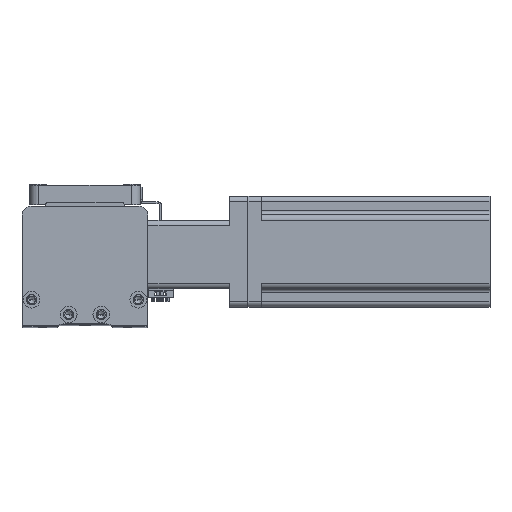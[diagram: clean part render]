
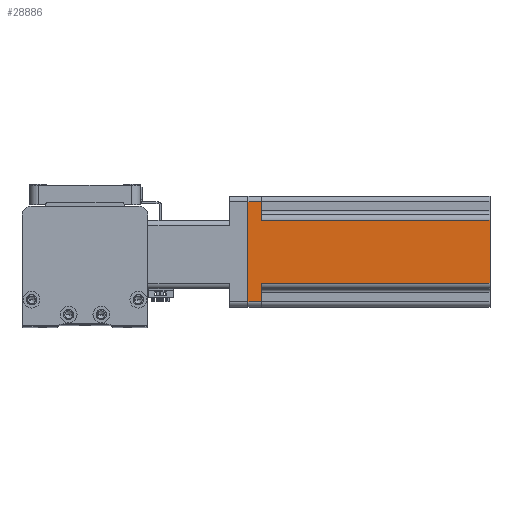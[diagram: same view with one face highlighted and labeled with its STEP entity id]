
A CAD part, top view. The second image highlights one B-rep face of the part: STEP entity #28886.
In plain terms, the highlighted planar face has unit normal (0, 0, 1) as drawn and (1, 0, 0) by its records, which use the part's own axes.
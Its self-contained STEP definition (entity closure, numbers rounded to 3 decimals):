
#567 = VERTEX_POINT ( 'NONE', #39133 ) ;
#2276 = ORIENTED_EDGE ( 'NONE', *, *, #24563, .T. ) ;
#2389 = EDGE_CURVE ( 'NONE', #29816, #38630, #24641, .T. ) ;
#2416 = CARTESIAN_POINT ( 'NONE',  ( 30., -30., 130.7 ) ) ;
#2629 = EDGE_CURVE ( 'NONE', #29816, #37525, #14447, .T. ) ;
#2710 = DIRECTION ( 'NONE',  ( 0., -1., 0. ) ) ;
#2747 = EDGE_CURVE ( 'NONE', #18553, #37525, #17988, .T. ) ;
#3157 = EDGE_LOOP ( 'NONE', ( #40723, #36062, #2276, #20731, #13988, #18474, #4409, #36394 ) ) ;
#3267 = LINE ( 'NONE', #19805, #10836 ) ;
#4409 = ORIENTED_EDGE ( 'NONE', *, *, #2629, .F. ) ;
#5185 = VERTEX_POINT ( 'NONE', #6731 ) ;
#5613 = CARTESIAN_POINT ( 'NONE',  ( 30., -30., 130.7 ) ) ;
#6731 = CARTESIAN_POINT ( 'NONE',  ( 30., -17., 130.7 ) ) ;
#6917 = VECTOR ( 'NONE', #41690, 1000. ) ;
#7534 = VECTOR ( 'NONE', #21786, 1000. ) ;
#8405 = DIRECTION ( 'NONE',  ( 0., 0., 1. ) ) ;
#8862 = DIRECTION ( 'NONE',  ( 0., 0., 1. ) ) ;
#9389 = VECTOR ( 'NONE', #8405, 1000. ) ;
#10541 = VERTEX_POINT ( 'NONE', #21594 ) ;
#10836 = VECTOR ( 'NONE', #23063, 1000. ) ;
#11458 = EDGE_CURVE ( 'NONE', #15445, #18553, #35357, .T. ) ;
#12368 = AXIS2_PLACEMENT_3D ( 'NONE', #5613, #28245, #8862 ) ;
#13988 = ORIENTED_EDGE ( 'NONE', *, *, #11458, .T. ) ;
#14447 = LINE ( 'NONE', #29178, #6917 ) ;
#14976 = VECTOR ( 'NONE', #2710, 1000. ) ;
#15445 = VERTEX_POINT ( 'NONE', #20752 ) ;
#15959 = LINE ( 'NONE', #18796, #14976 ) ;
#17988 = LINE ( 'NONE', #31350, #9389 ) ;
#18474 = ORIENTED_EDGE ( 'NONE', *, *, #2747, .T. ) ;
#18553 = VERTEX_POINT ( 'NONE', #20704 ) ;
#18796 = CARTESIAN_POINT ( 'NONE',  ( 30., -30., 7.5 ) ) ;
#19025 = EDGE_CURVE ( 'NONE', #5185, #10541, #3267, .T. ) ;
#19805 = CARTESIAN_POINT ( 'NONE',  ( 30., -17., 7.5 ) ) ;
#20383 = DIRECTION ( 'NONE',  ( 0., 0., -1. ) ) ;
#20704 = CARTESIAN_POINT ( 'NONE',  ( 30., 27., 0. ) ) ;
#20731 = ORIENTED_EDGE ( 'NONE', *, *, #22917, .T. ) ;
#20752 = CARTESIAN_POINT ( 'NONE',  ( 30., -27., 0. ) ) ;
#21275 = EDGE_CURVE ( 'NONE', #5185, #38630, #39977, .T. ) ;
#21594 = CARTESIAN_POINT ( 'NONE',  ( 30., -17., 7.5 ) ) ;
#21786 = DIRECTION ( 'NONE',  ( 0., 1., 0. ) ) ;
#22917 = EDGE_CURVE ( 'NONE', #567, #15445, #40634, .T. ) ;
#23063 = DIRECTION ( 'NONE',  ( 0., 0., -1. ) ) ;
#24563 = EDGE_CURVE ( 'NONE', #10541, #567, #15959, .T. ) ;
#24641 = LINE ( 'NONE', #25911, #32167 ) ;
#25731 = VECTOR ( 'NONE', #35491, 1000. ) ;
#25911 = CARTESIAN_POINT ( 'NONE',  ( 30., 17., 130.7 ) ) ;
#28245 = DIRECTION ( 'NONE',  ( -1., 0., 0. ) ) ;
#28886 = ADVANCED_FACE ( 'NONE', ( #34185 ), #34635, .F. ) ;
#29178 = CARTESIAN_POINT ( 'NONE',  ( 30., 30., 7.5 ) ) ;
#29816 = VERTEX_POINT ( 'NONE', #36558 ) ;
#29971 = CARTESIAN_POINT ( 'NONE',  ( 30., -27., 130.7 ) ) ;
#31350 = CARTESIAN_POINT ( 'NONE',  ( 30., 27., 130.7 ) ) ;
#31398 = DIRECTION ( 'NONE',  ( 0., 0., 1. ) ) ;
#31658 = CARTESIAN_POINT ( 'NONE',  ( 30., 17., 130.7 ) ) ;
#31930 = VECTOR ( 'NONE', #20383, 1000. ) ;
#32167 = VECTOR ( 'NONE', #31398, 1000. ) ;
#32181 = CARTESIAN_POINT ( 'NONE',  ( 30., -30., 0. ) ) ;
#32466 = CARTESIAN_POINT ( 'NONE',  ( 30., 27., 7.5 ) ) ;
#34185 = FACE_OUTER_BOUND ( 'NONE', #3157, .T. ) ;
#34635 = PLANE ( 'NONE',  #12368 ) ;
#35357 = LINE ( 'NONE', #32181, #25731 ) ;
#35491 = DIRECTION ( 'NONE',  ( 0., 1., 0. ) ) ;
#36062 = ORIENTED_EDGE ( 'NONE', *, *, #19025, .T. ) ;
#36394 = ORIENTED_EDGE ( 'NONE', *, *, #2389, .T. ) ;
#36558 = CARTESIAN_POINT ( 'NONE',  ( 30., 17., 7.5 ) ) ;
#37525 = VERTEX_POINT ( 'NONE', #32466 ) ;
#38630 = VERTEX_POINT ( 'NONE', #31658 ) ;
#39133 = CARTESIAN_POINT ( 'NONE',  ( 30., -27., 7.5 ) ) ;
#39977 = LINE ( 'NONE', #2416, #7534 ) ;
#40634 = LINE ( 'NONE', #29971, #31930 ) ;
#40723 = ORIENTED_EDGE ( 'NONE', *, *, #21275, .F. ) ;
#41690 = DIRECTION ( 'NONE',  ( 0., 1., 0. ) ) ;
